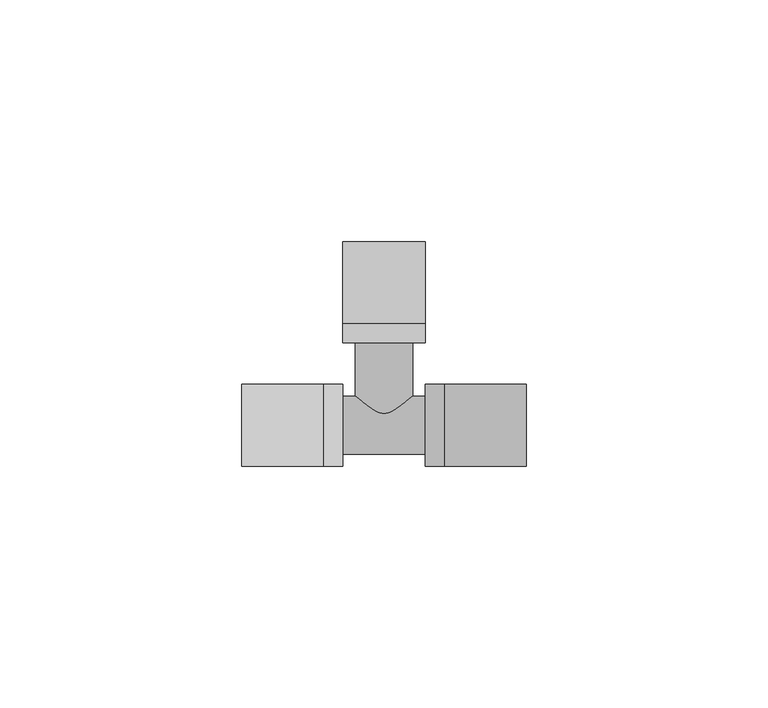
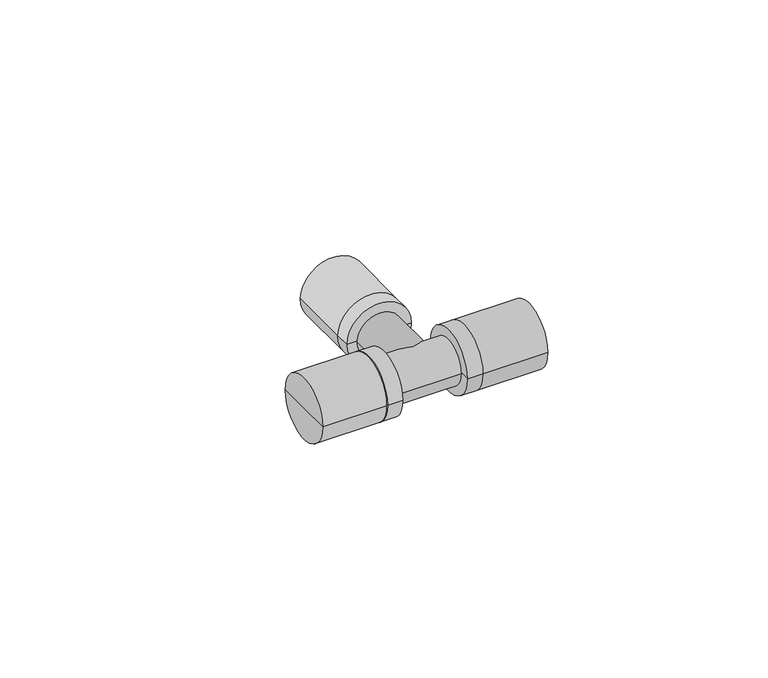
"""IFC4 building model written with IfcOpenShell, lengths in millimetres: pipe fitting geometry, KAN-therm Push trójnik PPSU : KAN-therm Push trójnik PPSU."""

from ifc_helpers import new_model, si_unit, frame, origin, place, context, project, spatial, circle_curve, source, transform, mapped, element, save
from ifc_brep_helpers import plane_surface, cylinder_surface, advanced_brep


def pipe_fitting_108f25d1(model_context):
    return source(origin(), model_context, "Body", "AdvancedBrep", [
        advanced_brep(
        [(-8.5, 21.0, 0.0), (0.0, 21.0, 0.0), (8.5, 21.0, 0.0), (-8.5, 17.0, 0.0), (8.5, 17.0, 0.0), (0.0, 17.0, 0.0)],
        [
            (0, 1),
            (1, 2),
            (2, 0, circle_curve(frame((0.0, 21.0, 0.0), z_axis=(0.0, 1.0, 0.0), x_axis=(1.0000000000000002, 0.0, 0.0)), 8.5)),
            (0, 2, circle_curve(frame((0.0, 21.0, 0.0), z_axis=(0.0, 1.0, 0.0), x_axis=(1.0000000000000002, 0.0, 0.0)), 8.5)),
            (3, 0),
            (2, 4),
            (4, 3, circle_curve(frame((0.0, 17.0, 0.0), z_axis=(0.0, 1.0, 0.0), x_axis=(1.0000000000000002, 0.0, 0.0)), 8.5)),
            (3, 4, circle_curve(frame((0.0, 17.0, 0.0), z_axis=(0.0, 1.0, 0.0), x_axis=(1.0000000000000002, 0.0, 0.0)), 8.5)),
            (5, 3),
            (4, 5),
        ],
        [
            plane_surface(frame((0.0, 21.0, 0.0), z_axis=(0.0, 1.0, 0.0), x_axis=(1.0, 0.0, 0.0))),
            cylinder_surface(frame((0.0, 2015.0, 0.0), z_axis=(0.0, -1.0000000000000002, 0.0), x_axis=(1.0000000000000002, 0.0, 0.0)), 8.5),
            plane_surface(frame((0.0, 17.0, 0.0), z_axis=(0.0, -1.0, 0.0), x_axis=(1.0, 0.0, 0.0))),
        ],
        [
            (0, [[1, 2, 3]]),
            (0, [[-2, -1, 4]]),
            (1, [[5, -3, 6, 7]]),
            (1, [[-6, -4, -5, 8]]),
            (2, [[9, -7, 10]]),
            (2, [[-10, -8, -9]]),
        ],
    ),
        advanced_brep(
        [(-8.5, 38.0, 0.0), (0.0, 38.0, 0.0), (8.5, 38.0, 0.0), (-8.5, 21.0, 0.0), (8.5, 21.0, 0.0), (0.0, 21.0, 0.0)],
        [
            (0, 1),
            (1, 2),
            (2, 0, circle_curve(frame((0.0, 38.0, 0.0), z_axis=(0.0, 1.0, 0.0), x_axis=(1.0000000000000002, 0.0, 0.0)), 8.5)),
            (0, 2, circle_curve(frame((0.0, 38.0, 0.0), z_axis=(0.0, 1.0, 0.0), x_axis=(1.0000000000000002, 0.0, 0.0)), 8.5)),
            (3, 0),
            (2, 4),
            (4, 3, circle_curve(frame((0.0, 21.0, 0.0), z_axis=(0.0, 1.0, 0.0), x_axis=(1.0000000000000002, 0.0, 0.0)), 8.5)),
            (3, 4, circle_curve(frame((0.0, 21.0, 0.0), z_axis=(0.0, 1.0, 0.0), x_axis=(1.0000000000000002, 0.0, 0.0)), 8.5)),
            (5, 3),
            (4, 5),
        ],
        [
            plane_surface(frame((0.0, 38.0, 0.0), z_axis=(0.0, 1.0, 0.0), x_axis=(1.0, 0.0, 0.0))),
            cylinder_surface(frame((0.0, 2015.0, 0.0), z_axis=(0.0, -1.0000000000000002, 0.0), x_axis=(1.0000000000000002, 0.0, 0.0)), 8.5),
            plane_surface(frame((0.0, 21.0, 0.0), z_axis=(0.0, -1.0, 0.0), x_axis=(1.0, 0.0, 0.0))),
        ],
        [
            (0, [[1, 2, 3]]),
            (0, [[-2, -1, 4]]),
            (1, [[5, -3, 6, 7]]),
            (1, [[-6, -4, -5, 8]]),
            (2, [[9, -7, 10]]),
            (2, [[-10, -8, -9]]),
        ],
    ),
        advanced_brep(
        [(-12.5, -8.5, 0.0), (-12.5, 0.0, 0.0), (-12.5, 8.5, 0.0), (-8.5, -8.5, 0.0), (-8.5, 8.5, 0.0), (-8.5, 0.0, 0.0)],
        [
            (0, 1),
            (1, 2),
            (2, 0, circle_curve(frame((-12.5, 0.0, 0.0), z_axis=(-1.0, 0.0, 0.0), x_axis=(0.0, 1.0, 0.0)), 8.5)),
            (0, 2, circle_curve(frame((-12.5, 0.0, 0.0), z_axis=(-1.0, 0.0, 0.0), x_axis=(0.0, 1.0, 0.0)), 8.5)),
            (3, 0),
            (2, 4),
            (4, 3, circle_curve(frame((-8.5, 0.0, 0.0), z_axis=(-1.0, 0.0, 0.0), x_axis=(0.0, 1.0, 0.0)), 8.5)),
            (3, 4, circle_curve(frame((-8.5, 0.0, 0.0), z_axis=(-1.0, 0.0, 0.0), x_axis=(0.0, 1.0, 0.0)), 8.5)),
            (5, 3),
            (4, 5),
        ],
        [
            plane_surface(frame((-12.5, 0.0, 0.0), z_axis=(-1.0, 0.0, 0.0), x_axis=(0.0, 1.0, 0.0))),
            cylinder_surface(frame((-2006.5, 0.0, 0.0), z_axis=(1.0, 0.0, 0.0), x_axis=(0.0, 1.0, 0.0)), 8.5),
            plane_surface(frame((-8.5, 0.0, 0.0), z_axis=(1.0, 0.0, 0.0), x_axis=(0.0, 1.0, 0.0))),
        ],
        [
            (0, [[1, 2, 3]]),
            (0, [[-2, -1, 4]]),
            (1, [[5, -3, 6, 7]]),
            (1, [[-6, -4, -5, 8]]),
            (2, [[9, -7, 10]]),
            (2, [[-10, -8, -9]]),
        ],
    ),
        advanced_brep(
        [(-29.5, -8.5, 0.0), (-29.5, 0.0, 0.0), (-29.5, 8.5, 0.0), (-12.5, -8.5, 0.0), (-12.5, 8.5, 0.0), (-12.5, 0.0, 0.0)],
        [
            (0, 1),
            (1, 2),
            (2, 0, circle_curve(frame((-29.5, 0.0, 0.0), z_axis=(-1.0, 0.0, 0.0), x_axis=(0.0, 1.0, 0.0)), 8.5)),
            (0, 2, circle_curve(frame((-29.5, 0.0, 0.0), z_axis=(-1.0, 0.0, 0.0), x_axis=(0.0, 1.0, 0.0)), 8.5)),
            (3, 0),
            (2, 4),
            (4, 3, circle_curve(frame((-12.5, 0.0, 0.0), z_axis=(-1.0, 0.0, 0.0), x_axis=(0.0, 1.0, 0.0)), 8.5)),
            (3, 4, circle_curve(frame((-12.5, 0.0, 0.0), z_axis=(-1.0, 0.0, 0.0), x_axis=(0.0, 1.0, 0.0)), 8.5)),
            (5, 3),
            (4, 5),
        ],
        [
            plane_surface(frame((-29.5, 0.0, 0.0), z_axis=(-1.0, 0.0, 0.0), x_axis=(0.0, 1.0, 0.0))),
            cylinder_surface(frame((-2006.5, 0.0, 0.0), z_axis=(1.0, 0.0, 0.0), x_axis=(0.0, 1.0, 0.0)), 8.5),
            plane_surface(frame((-12.5, 0.0, 0.0), z_axis=(1.0, 0.0, 0.0), x_axis=(0.0, 1.0, 0.0))),
        ],
        [
            (0, [[1, 2, 3]]),
            (0, [[-2, -1, 4]]),
            (1, [[5, -3, 6, 7]]),
            (1, [[-6, -4, -5, 8]]),
            (2, [[9, -7, 10]]),
            (2, [[-10, -8, -9]]),
        ],
    ),
        advanced_brep(
        [(12.5, -8.5, 0.0), (12.5, 8.5, 0.0), (12.5, 0.0, 0.0), (8.5, -8.5, 0.0), (8.5, 8.5, 0.0), (8.5, 0.0, 0.0)],
        [
            (0, 1, circle_curve(frame((12.5, 0.0, 0.0), z_axis=(1.0, 0.0, 0.0), x_axis=(0.0, 1.0, 0.0)), 8.5)),
            (1, 2),
            (2, 0),
            (1, 0, circle_curve(frame((12.5, 0.0, 0.0), z_axis=(1.0, 0.0, 0.0), x_axis=(0.0, 1.0, 0.0)), 8.5)),
            (3, 4, circle_curve(frame((8.5, 0.0, 0.0), z_axis=(1.0, 0.0, 0.0), x_axis=(0.0, 1.0, 0.0)), 8.5)),
            (4, 1),
            (0, 3),
            (4, 3, circle_curve(frame((8.5, 0.0, 0.0), z_axis=(1.0, 0.0, 0.0), x_axis=(0.0, 1.0, 0.0)), 8.5)),
            (5, 4),
            (3, 5),
        ],
        [
            plane_surface(frame((12.5, 0.0, 0.0), z_axis=(1.0, 0.0, 0.0), x_axis=(0.0, 1.0, 0.0))),
            cylinder_surface(frame((2006.5, 0.0, 0.0), z_axis=(-1.0, 0.0, 0.0), x_axis=(0.0, 1.0, 0.0)), 8.5),
            plane_surface(frame((8.5, 0.0, 0.0), z_axis=(-1.0, 0.0, 0.0), x_axis=(0.0, 1.0, 0.0))),
        ],
        [
            (0, [[1, 2, 3]]),
            (0, [[4, -3, -2]]),
            (1, [[5, 6, -1, 7]]),
            (1, [[8, -7, -4, -6]]),
            (2, [[9, -5, 10]]),
            (2, [[-10, -8, -9]]),
        ],
    ),
        advanced_brep(
        [(29.5, -8.5, 0.0), (29.5, 8.5, 0.0), (29.5, 0.0, 0.0), (12.5, -8.5, 0.0), (12.5, 8.5, 0.0), (12.5, 0.0, 0.0)],
        [
            (0, 1, circle_curve(frame((29.5, 0.0, 0.0), z_axis=(1.0, 0.0, 0.0), x_axis=(0.0, 1.0, 0.0)), 8.5)),
            (1, 2),
            (2, 0),
            (1, 0, circle_curve(frame((29.5, 0.0, 0.0), z_axis=(1.0, 0.0, 0.0), x_axis=(0.0, 1.0, 0.0)), 8.5)),
            (3, 4, circle_curve(frame((12.5, 0.0, 0.0), z_axis=(1.0, 0.0, 0.0), x_axis=(0.0, 1.0, 0.0)), 8.5)),
            (4, 1),
            (0, 3),
            (4, 3, circle_curve(frame((12.5, 0.0, 0.0), z_axis=(1.0, 0.0, 0.0), x_axis=(0.0, 1.0, 0.0)), 8.5)),
            (5, 4),
            (3, 5),
        ],
        [
            plane_surface(frame((29.5, 0.0, 0.0), z_axis=(1.0, 0.0, 0.0), x_axis=(0.0, 1.0, 0.0))),
            cylinder_surface(frame((2006.5, 0.0, 0.0), z_axis=(-1.0, 0.0, 0.0), x_axis=(0.0, 1.0, 0.0)), 8.5),
            plane_surface(frame((12.5, 0.0, 0.0), z_axis=(-1.0, 0.0, 0.0), x_axis=(0.0, 1.0, 0.0))),
        ],
        [
            (0, [[1, 2, 3]]),
            (0, [[4, -3, -2]]),
            (1, [[5, 6, -1, 7]]),
            (1, [[8, -7, -4, -6]]),
            (2, [[9, -5, 10]]),
            (2, [[-10, -8, -9]]),
        ],
    ),
        advanced_brep(
        [(12.5, -6.0, 0.0), (12.5, 6.0, 0.0), (12.5, 0.0, 0.0), (-12.5, -6.0, 0.0), (-12.5, 6.0, 0.0), (-12.5, 0.0, 0.0)],
        [
            (0, 1, circle_curve(frame((12.5, 0.0, 0.0), z_axis=(1.0, 0.0, 0.0), x_axis=(0.0, 1.0, 0.0)), 6.0)),
            (1, 2),
            (2, 0),
            (1, 0, circle_curve(frame((12.5, 0.0, 0.0), z_axis=(1.0, 0.0, 0.0), x_axis=(0.0, 1.0, 0.0)), 6.0)),
            (3, 4, circle_curve(frame((-12.5, 0.0, 0.0), z_axis=(1.0, 0.0, 0.0), x_axis=(0.0, 1.0, 0.0)), 6.0)),
            (4, 1),
            (0, 3),
            (4, 3, circle_curve(frame((-12.5, 0.0, 0.0), z_axis=(1.0, 0.0, 0.0), x_axis=(0.0, 1.0, 0.0)), 6.0)),
            (5, 4),
            (3, 5),
        ],
        [
            plane_surface(frame((12.5, 0.0, 0.0), z_axis=(1.0, 0.0, 0.0), x_axis=(0.0, 1.0, 0.0))),
            cylinder_surface(frame((2000.0, 0.0, 0.0), z_axis=(-1.0, 0.0, 0.0), x_axis=(0.0, 1.0, 0.0)), 6.0),
            plane_surface(frame((-12.5, 0.0, 0.0), z_axis=(-1.0, 0.0, 0.0), x_axis=(0.0, 1.0, 0.0))),
        ],
        [
            (0, [[1, 2, 3]]),
            (0, [[4, -3, -2]]),
            (1, [[5, 6, -1, 7]]),
            (1, [[8, -7, -4, -6]]),
            (2, [[9, -5, 10]]),
            (2, [[-10, -8, -9]]),
        ],
    ),
        advanced_brep(
        [(-6.0, 0.0, 0.0), (6.0, 0.0, 0.0), (0.0, 0.0, 0.0), (-6.0, 21.0, 0.0), (6.0, 21.0, 0.0), (0.0, 21.0, 0.0)],
        [
            (0, 1, circle_curve(frame((0.0, 0.0, 0.0), z_axis=(0.0, -1.0, 0.0), x_axis=(1.0, 0.0, 0.0)), 6.0)),
            (1, 2),
            (2, 0),
            (1, 0, circle_curve(frame((0.0, 0.0, 0.0), z_axis=(0.0, -1.0, 0.0), x_axis=(1.0, 0.0, 0.0)), 6.0)),
            (3, 4, circle_curve(frame((0.0, 21.0, 0.0), z_axis=(0.0, -1.0, 0.0), x_axis=(1.0, 0.0, 0.0)), 6.0)),
            (4, 1),
            (0, 3),
            (4, 3, circle_curve(frame((0.0, 21.0, 0.0), z_axis=(0.0, -1.0, 0.0), x_axis=(1.0, 0.0, 0.0)), 6.0)),
            (5, 4),
            (3, 5),
        ],
        [
            plane_surface(frame((0.0, 0.0, 0.0), z_axis=(0.0, -1.0, 0.0), x_axis=(1.0, 0.0, 0.0))),
            cylinder_surface(frame((0.0, 2003.0, 0.0), z_axis=(0.0, 1.0, 0.0), x_axis=(1.0, 0.0, 0.0)), 6.0),
            plane_surface(frame((0.0, 21.0, 0.0), z_axis=(0.0, 1.0, 0.0), x_axis=(1.0, 0.0, 0.0))),
        ],
        [
            (0, [[1, 2, 3]]),
            (0, [[4, -3, -2]]),
            (1, [[5, 6, -1, 7]]),
            (1, [[8, -7, -4, -6]]),
            (2, [[9, -5, 10]]),
            (2, [[-10, -8, -9]]),
        ],
    ),
    ])


if __name__ == "__main__":
    model = new_model("IFC4")
    model_context = context("Model", 3, world=origin())
    ifc_project = project(units=[si_unit("LENGTHUNIT", "METRE", prefix="MILLI")], contexts=[model_context])
    site = spatial("IfcSite", under=ifc_project)
    building = spatial("IfcBuilding", under=site)
    placement = place(None, origin())
    pipe_fitting_shape = pipe_fitting_108f25d1(model_context)
    element("IfcPipeFitting", 1, ObjectType="KAN-therm Push trójnik PPSU : KAN-therm Push trójnik PPSU", at=placement, inside=building, context=model_context, shape_type="MappedRepresentation", body=[
        mapped(pipe_fitting_shape, transform((0.0, 0.0, 0.0), x_axis=(1.0, 0.0, 0.0), y_axis=(0.0, 1.0, 0.0), z_axis=(0.0, 0.0, 1.0))),
    ])
    save(model, "model.ifc")
